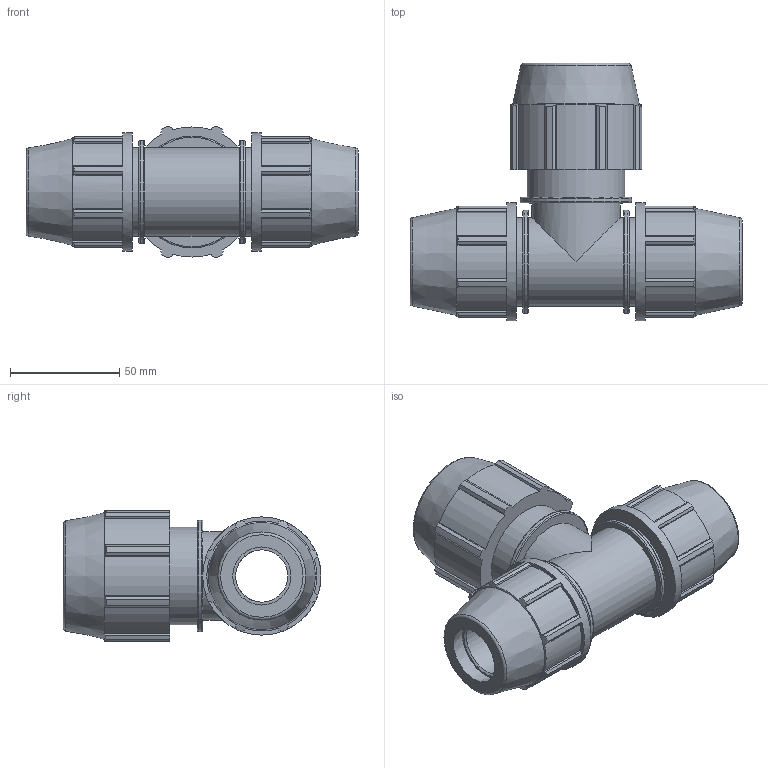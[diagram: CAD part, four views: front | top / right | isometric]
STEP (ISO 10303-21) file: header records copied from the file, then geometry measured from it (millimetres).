
FILE_DESCRIPTION(/* description */ ('Plasson Enlarging Tee 90 3/4'''' - 1'''' - 3/4'''''),/* implementation_level */ '2;1');
FILE_NAME(/* name */ 'C:\Dropbox\KIMPROJECTS-Inventor 2019\99-16-3568-Processing Inch\ASTM Compression 2021\0774M0\0774M0007010.ipt.stp',/* time_stamp */ '2021-08-26T12:35:05+03:00',/* author */ ('KIM'),/* organization */ (''),/* preprocessor_version */ 'ST-DEVELOPER v17.2',/* originating_system */ 'Autodesk Inventor 2019',/* authorisation */ '');
FILE_SCHEMA (('AUTOMOTIVE_DESIGN { 1 0 10303 214 3 1 1 }'));
Length unit declared in the file: inch
Products named in the file (1): 0774M0007010
Bounding box: 151.89 x 117.98 x 60.23 mm (x, y, z)
Volume: 273475.9 mm3; surface area: 65335.6 mm2
Topology: 1 solids, 1 shells, 198 faces, 584 edges, 404 vertices
Faces by surface type: plane 130, cylinder 47, cone 12, torus 9
Full cylindrical faces by diameter (mm): 23.94 x2, 26.6 x2, 33.3 x1, 40.576 x4, 44.806 x1, 47.069 x2, 51.206 x1, 54.102 x2
Entity records: 6958 total; most frequent: CARTESIAN_POINT 1283, ORIENTED_EDGE 1168, DIRECTION 1155, EDGE_CURVE 584, AXIS2_PLACEMENT_3D 420, VERTEX_POINT 404, LINE 315, VECTOR 315
